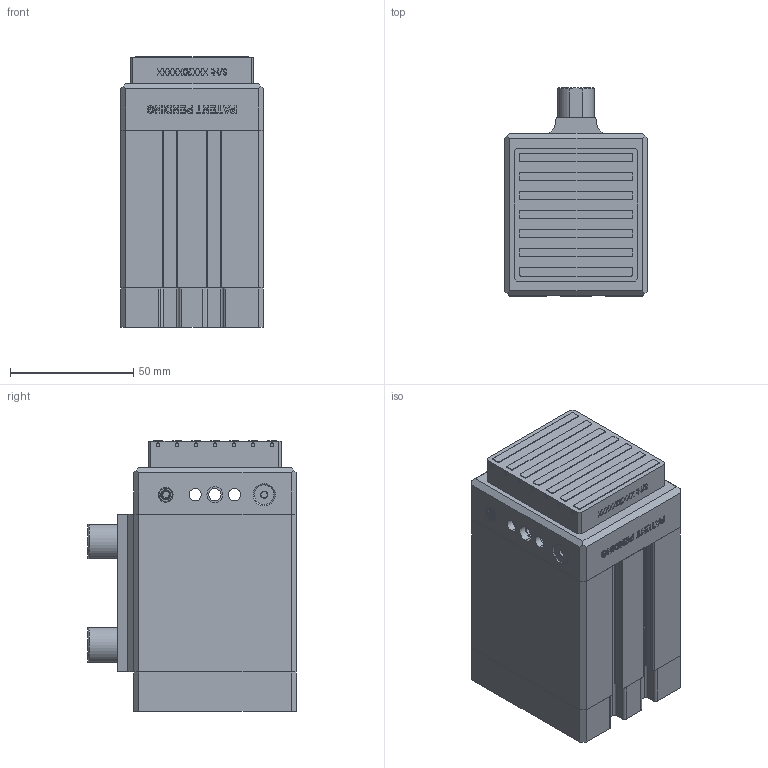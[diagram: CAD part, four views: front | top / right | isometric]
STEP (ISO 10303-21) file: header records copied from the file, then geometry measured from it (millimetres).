
FILE_DESCRIPTION (( 'STEP AP203' ), '1' );
FILE_NAME ('80001457_p.STEP', '2021-06-22T20:33:46', ( '' ), ( '' ), 'SwSTEP 2.0', 'SolidWorks 2018', '' );
FILE_SCHEMA (( 'CONFIG_CONTROL_DESIGN' ));
Length unit declared in the file: millimetre
Products named in the file (1): 80001457_p
Bounding box: 58 x 84.6 x 110 mm (x, y, z)
Surface area: 48987.6 mm2 (no closed solid volume)
Topology: 0 solids, 30 shells, 1014 faces, 4088 edges, 2943 vertices
Faces by surface type: plane 562, cylinder 225, bspline 145, cone 78, torus 4
Entity records: 52416 total; most frequent: CARTESIAN_POINT 21003, ORIENTED_EDGE 6072, DIRECTION 5621, EDGE_CURVE 4088, VERTEX_POINT 2943, VECTOR 2733, LINE 2733, AXIS2_PLACEMENT_3D 1444
